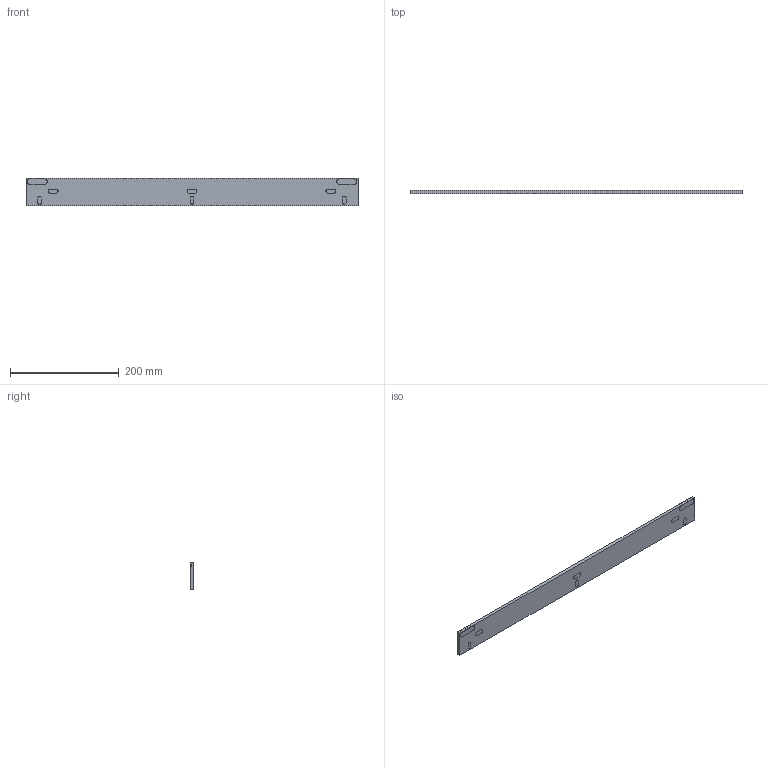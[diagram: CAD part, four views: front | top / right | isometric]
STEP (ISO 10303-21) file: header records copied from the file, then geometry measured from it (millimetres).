
FILE_DESCRIPTION(('TFLEX Exchange Step'),'2;1');
FILE_NAME('X2\041A0440043E043D0448044204350439043D\X0\ Линейки 470.stp', '2026-07-06T15:08:08+03:00',('KUser'),('Unknown organisation'),'TFLEX Exchange 2024.6','T-FLEX CAD','Unknown authorisation');
FILE_SCHEMA( ('AP203_CONFIGURATION_CONTROLLED_3D_DESIGN_OF_MECHANICAL_PARTS_AND_ASSEMBLIES_MIM_LF') );
Length unit declared in the file: millimetre
Products named in the file (1): Nodes
Bounding box: 610 x 6 x 50 mm (x, y, z)
Volume: 175903.3 mm3; surface area: 102049.2 mm2
Topology: 1 solids, 15 shells, 80 faces, 233 edges, 174 vertices
Faces by surface type: bspline 80
Entity records: 3087 total; most frequent: CARTESIAN_POINT 1677, ORIENTED_EDGE 410, EDGE_CURVE 233, VERTEX_POINT 174, B_SPLINE_CURVE_WITH_KNOTS 149, EDGE_LOOP 101, FACE_BOUND 101, B_SPLINE_SURFACE_WITH_KNOTS 80
